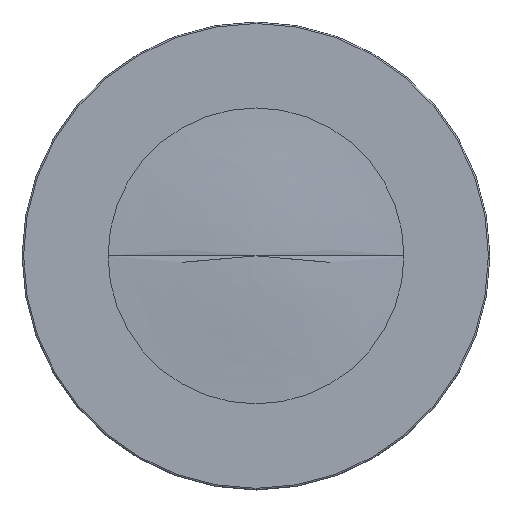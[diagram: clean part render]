
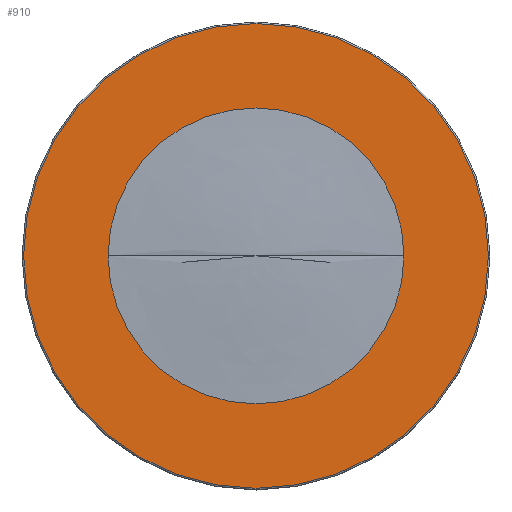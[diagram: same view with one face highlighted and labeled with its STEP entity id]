
A CAD part, top view. The second image highlights one B-rep face of the part: STEP entity #910.
In plain terms, the highlighted planar face has unit normal (0, 0, 1).
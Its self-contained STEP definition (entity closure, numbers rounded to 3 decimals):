
#95=CARTESIAN_POINT('',(2.,0.,2.984));
#191=CARTESIAN_POINT('',(-2.,0.,2.984));
#193=CARTESIAN_POINT('',(0.,0.,2.984));
#194=DIRECTION('',(0.,0.,-1.));
#195=DIRECTION('',(1.,0.,0.));
#196=AXIS2_PLACEMENT_3D('',#193,#194,#195);
#198=CARTESIAN_POINT('',(0.,0.,2.984));
#199=DIRECTION('',(0.,0.,1.));
#200=DIRECTION('',(1.,0.,0.));
#201=AXIS2_PLACEMENT_3D('',#198,#199,#200);
#203=CARTESIAN_POINT('',(0.,0.,2.984));
#204=DIRECTION('',(0.,0.,-1.));
#205=DIRECTION('',(1.,0.,0.));
#206=AXIS2_PLACEMENT_3D('',#203,#204,#205);
#208=CARTESIAN_POINT('',(0.,0.,2.984));
#209=DIRECTION('',(0.,0.,-1.));
#210=DIRECTION('',(-1.,0.,0.));
#211=AXIS2_PLACEMENT_3D('',#208,#209,#210);
#650=VERTEX_POINT('',#95);
#651=VERTEX_POINT('',#191);
#673=CARTESIAN_POINT('',(3.143,0.,2.984));
#674=CARTESIAN_POINT('',(-3.143,0.,2.984));
#675=VERTEX_POINT('',#673);
#676=VERTEX_POINT('',#674);
#895=CARTESIAN_POINT('',(0.,0.,2.984));
#896=DIRECTION('',(0.,0.,1.));
#897=DIRECTION('',(-1.,0.,0.));
#898=AXIS2_PLACEMENT_3D('',#895,#896,#897);
#899=PLANE('',#898);
#901=ORIENTED_EDGE('',*,*,#900,.T.);
#903=ORIENTED_EDGE('',*,*,#902,.T.);
#904=EDGE_LOOP('',(#901,#903));
#905=FACE_OUTER_BOUND('',#904,.F.);
#906=ORIENTED_EDGE('',*,*,#889,.F.);
#907=ORIENTED_EDGE('',*,*,#782,.T.);
#908=EDGE_LOOP('',(#906,#907));
#909=FACE_BOUND('',#908,.F.);
#910=ADVANCED_FACE('',(#905,#909),#899,.T.);
#197=CIRCLE('',#196,2.);
#202=CIRCLE('',#201,2.);
#207=CIRCLE('',#206,3.143);
#212=CIRCLE('',#211,3.143);
#782=EDGE_CURVE('',#650,#651,#202,.T.);
#889=EDGE_CURVE('',#650,#651,#197,.T.);
#900=EDGE_CURVE('',#675,#676,#207,.T.);
#902=EDGE_CURVE('',#676,#675,#212,.T.);
